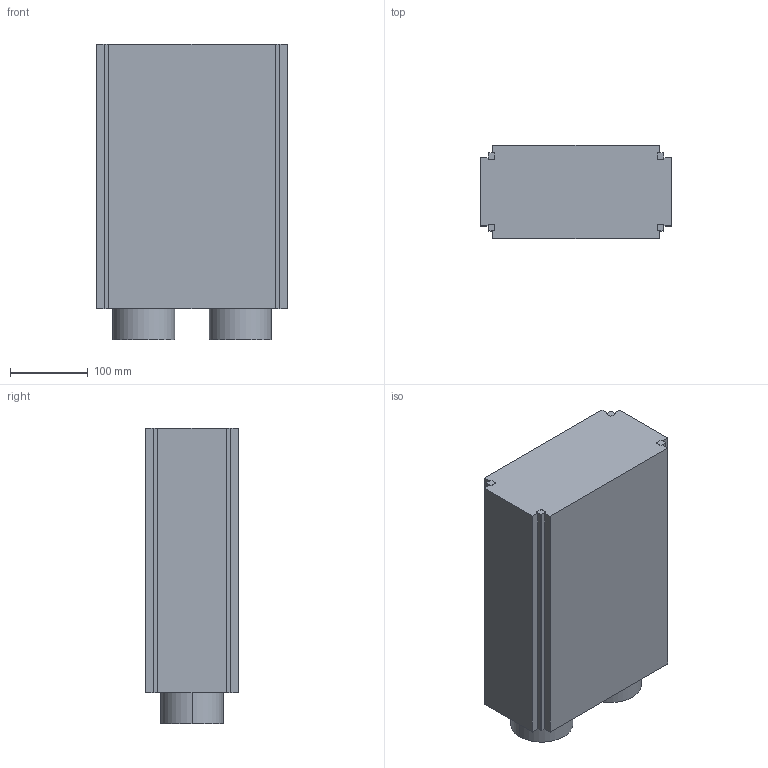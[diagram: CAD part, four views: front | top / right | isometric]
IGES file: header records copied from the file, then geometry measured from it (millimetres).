
Start section:  PTC IGES file: C:\Users\gleb\z) Windows folders\Desktop\1) ISIPOD Fligh t Model\4) CubeSat_Dims\160916_Updated_CubeSat_ISIS_Advised_Max_Dimensio ns\160916_RevD_6U_CubeSat_ISIS_Advised_Max_Dimensions.igs
Global section: file name: C:\Users\gleb\z) Windows folders\Desktop\1) ISIPOD Flight Model\4) CubeSat_Dims\160916_Updated_CubeSat_ISIS_Advised_Max_Dimensions\160916_RevD_6U_CubeSat_ISIS_Advised_Max_Dimensions.igs; native system: gleb by Parametric Technology Corporation; preprocessor: 2003250; author: Unknown; organization: PTC; date: 160916.095510; units: millimetre
Bounding box: 246.3 x 120 x 380.5 mm (x, y, z)
Volume: 10151427.3 mm3; surface area: 325808.4 mm2
Topology: 1 solids, 1 shells, 44 faces, 120 edges, 80 vertices
Faces by surface type: bspline 40, revolution 4
